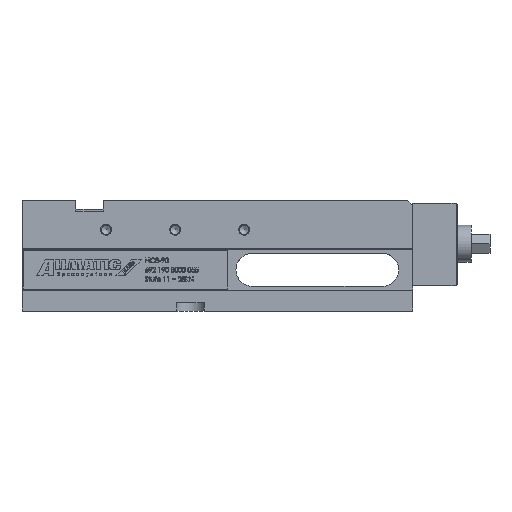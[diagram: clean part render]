
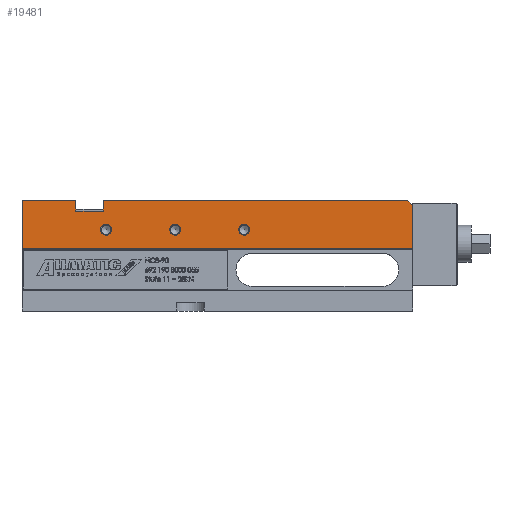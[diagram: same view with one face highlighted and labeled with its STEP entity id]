
A CAD part, top view. The second image highlights one B-rep face of the part: STEP entity #19481.
In plain terms, the highlighted planar face has unit normal (0, 0, 1).
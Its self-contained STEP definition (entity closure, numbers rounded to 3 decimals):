
#169 = EDGE_CURVE ( 'NONE', #33614, #24968, #80246, .T. ) ;
#342 = CARTESIAN_POINT ( 'NONE',  ( 287., 80.5, 45. ) ) ;
#566 = CARTESIAN_POINT ( 'NONE',  ( 63., 76.5, 45. ) ) ;
#716 = LINE ( 'NONE', #5271, #48009 ) ;
#1666 = FACE_BOUND ( 'NONE', #73721, .T. ) ;
#2230 = ORIENTED_EDGE ( 'NONE', *, *, #17403, .F. ) ;
#2311 = DIRECTION ( 'NONE',  ( 0., 0., -1. ) ) ;
#2615 = CARTESIAN_POINT ( 'NONE',  ( 4., 84., 45. ) ) ;
#3860 = EDGE_CURVE ( 'NONE', #24968, #87711, #76806, .T. ) ;
#4308 = CARTESIAN_POINT ( 'NONE',  ( 165., 63., 45. ) ) ;
#5242 = EDGE_CURVE ( 'NONE', #87711, #30133, #54923, .T. ) ;
#5271 = CARTESIAN_POINT ( 'NONE',  ( 287., 4., 45. ) ) ;
#6097 = EDGE_CURVE ( 'NONE', #30133, #64473, #100355, .T. ) ;
#8095 = ORIENTED_EDGE ( 'NONE', *, *, #169, .F. ) ;
#8390 = ORIENTED_EDGE ( 'NONE', *, *, #3860, .F. ) ;
#8435 = DIRECTION ( 'NONE',  ( 0., 0., 1. ) ) ;
#9870 = EDGE_CURVE ( 'NONE', #64473, #87802, #109875, .T. ) ;
#10565 = EDGE_CURVE ( 'NONE', #87802, #89664, #75079, .T. ) ;
#11250 = EDGE_CURVE ( 'NONE', #21393, #89664, #25298, .T. ) ;
#13100 = CARTESIAN_POINT ( 'NONE',  ( 63., 84., 45. ) ) ;
#15245 = ORIENTED_EDGE ( 'NONE', *, *, #6097, .F. ) ;
#16037 = CARTESIAN_POINT ( 'NONE',  ( 4., 4., 45. ) ) ;
#17234 = EDGE_CURVE ( 'NONE', #75955, #75955, #41947, .T. ) ;
#17403 = EDGE_CURVE ( 'NONE', #52459, #52459, #32714, .T. ) ;
#18557 = CARTESIAN_POINT ( 'NONE',  ( 169., 63., 45. ) ) ;
#19417 = AXIS2_PLACEMENT_3D ( 'NONE', #4308, #53293, #60640 ) ;
#19481 = ADVANCED_FACE ( 'NONE', ( #67226, #65984, #1666, #61372 ), #85770, .F. ) ;
#20871 = VECTOR ( 'NONE', #42254, 1000. ) ;
#21393 = VERTEX_POINT ( 'NONE', #342 ) ;
#23264 = EDGE_CURVE ( 'NONE', #96776, #96776, #26042, .T. ) ;
#24968 = VERTEX_POINT ( 'NONE', #2615 ) ;
#25298 = LINE ( 'NONE', #84901, #20871 ) ;
#26042 = CIRCLE ( 'NONE', #89824, 4. ) ;
#27328 = ORIENTED_EDGE ( 'NONE', *, *, #9870, .F. ) ;
#28781 = EDGE_LOOP ( 'NONE', ( #2230 ) ) ;
#29688 = ORIENTED_EDGE ( 'NONE', *, *, #5242, .F. ) ;
#30133 = VERTEX_POINT ( 'NONE', #77637 ) ;
#30564 = CARTESIAN_POINT ( 'NONE',  ( 4., 49., 45. ) ) ;
#32714 = CIRCLE ( 'NONE', #19417, 4. ) ;
#32859 = EDGE_CURVE ( 'NONE', #33614, #111500, #34142, .T. ) ;
#32877 = CARTESIAN_POINT ( 'NONE',  ( 115., 63., 45. ) ) ;
#33522 = CARTESIAN_POINT ( 'NONE',  ( 3.999, 49., 45. ) ) ;
#33614 = VERTEX_POINT ( 'NONE', #30564 ) ;
#34142 = LINE ( 'NONE', #33522, #90589 ) ;
#34610 = DIRECTION ( 'NONE',  ( 0., 1., 0. ) ) ;
#34996 = CARTESIAN_POINT ( 'NONE',  ( 63., 4., 45. ) ) ;
#36027 = DIRECTION ( 'NONE',  ( 1., 0., 0. ) ) ;
#36323 = DIRECTION ( 'NONE',  ( 0., 0., 1. ) ) ;
#38818 = CARTESIAN_POINT ( 'NONE',  ( 65., 63., 45. ) ) ;
#39125 = VECTOR ( 'NONE', #68016, 1000. ) ;
#40192 = VECTOR ( 'NONE', #34610, 1000. ) ;
#41947 = CIRCLE ( 'NONE', #101096, 4. ) ;
#42254 = DIRECTION ( 'NONE',  ( -0.707, 0.707, 0. ) ) ;
#44898 = AXIS2_PLACEMENT_3D ( 'NONE', #50341, #2311, #69728 ) ;
#46945 = CARTESIAN_POINT ( 'NONE',  ( 43., 84., 45. ) ) ;
#47595 = CARTESIAN_POINT ( 'NONE',  ( 43., 4., 45. ) ) ;
#47601 = DIRECTION ( 'NONE',  ( 1., 0., 0. ) ) ;
#48009 = VECTOR ( 'NONE', #67475, 1000. ) ;
#50341 = CARTESIAN_POINT ( 'NONE',  ( 4., 4., 45. ) ) ;
#52459 = VERTEX_POINT ( 'NONE', #18557 ) ;
#53293 = DIRECTION ( 'NONE',  ( 0., 0., 1. ) ) ;
#54923 = LINE ( 'NONE', #47595, #39125 ) ;
#57116 = DIRECTION ( 'NONE',  ( 1., 0., 0. ) ) ;
#60640 = DIRECTION ( 'NONE',  ( 1., 0., 0. ) ) ;
#60652 = ORIENTED_EDGE ( 'NONE', *, *, #32859, .T. ) ;
#61372 = FACE_OUTER_BOUND ( 'NONE', #82494, .T. ) ;
#64473 = VERTEX_POINT ( 'NONE', #566 ) ;
#65984 = FACE_BOUND ( 'NONE', #28781, .T. ) ;
#67226 = FACE_BOUND ( 'NONE', #102829, .T. ) ;
#67475 = DIRECTION ( 'NONE',  ( 0., 1., 0. ) ) ;
#68016 = DIRECTION ( 'NONE',  ( 0., -1., 0. ) ) ;
#69728 = DIRECTION ( 'NONE',  ( -1., 0., 0. ) ) ;
#69933 = ORIENTED_EDGE ( 'NONE', *, *, #93843, .T. ) ;
#71713 = CARTESIAN_POINT ( 'NONE',  ( 119., 63., 45. ) ) ;
#71765 = CARTESIAN_POINT ( 'NONE',  ( 287., 49., 45. ) ) ;
#72040 = CARTESIAN_POINT ( 'NONE',  ( 283.5, 84., 45. ) ) ;
#72357 = VECTOR ( 'NONE', #47601, 1000. ) ;
#73189 = ORIENTED_EDGE ( 'NONE', *, *, #11250, .T. ) ;
#73721 = EDGE_LOOP ( 'NONE', ( #101208 ) ) ;
#73854 = DIRECTION ( 'NONE',  ( 0., 1., 0. ) ) ;
#75079 = LINE ( 'NONE', #99508, #95965 ) ;
#75955 = VERTEX_POINT ( 'NONE', #71713 ) ;
#76806 = LINE ( 'NONE', #97569, #72357 ) ;
#77637 = CARTESIAN_POINT ( 'NONE',  ( 43., 76.5, 45. ) ) ;
#80246 = LINE ( 'NONE', #16037, #103952 ) ;
#82494 = EDGE_LOOP ( 'NONE', ( #69933, #73189, #84378, #27328, #15245, #29688, #8390, #8095, #60652 ) ) ;
#84378 = ORIENTED_EDGE ( 'NONE', *, *, #10565, .F. ) ;
#84901 = CARTESIAN_POINT ( 'NONE',  ( 283.5, 84., 45. ) ) ;
#85770 = PLANE ( 'NONE',  #44898 ) ;
#87711 = VERTEX_POINT ( 'NONE', #46945 ) ;
#87802 = VERTEX_POINT ( 'NONE', #13100 ) ;
#89462 = CARTESIAN_POINT ( 'NONE',  ( 69., 63., 45. ) ) ;
#89664 = VERTEX_POINT ( 'NONE', #72040 ) ;
#89824 = AXIS2_PLACEMENT_3D ( 'NONE', #38818, #36323, #36027 ) ;
#90589 = VECTOR ( 'NONE', #113444, 1000. ) ;
#90906 = CARTESIAN_POINT ( 'NONE',  ( 4., 76.5, 45. ) ) ;
#93843 = EDGE_CURVE ( 'NONE', #111500, #21393, #716, .T. ) ;
#95965 = VECTOR ( 'NONE', #57116, 1000. ) ;
#96776 = VERTEX_POINT ( 'NONE', #89462 ) ;
#97262 = DIRECTION ( 'NONE',  ( 1., 0., 0. ) ) ;
#97569 = CARTESIAN_POINT ( 'NONE',  ( 4., 84., 45. ) ) ;
#99508 = CARTESIAN_POINT ( 'NONE',  ( 4., 84., 45. ) ) ;
#100049 = VECTOR ( 'NONE', #106209, 1000. ) ;
#100355 = LINE ( 'NONE', #90906, #100049 ) ;
#101096 = AXIS2_PLACEMENT_3D ( 'NONE', #32877, #8435, #97262 ) ;
#101208 = ORIENTED_EDGE ( 'NONE', *, *, #17234, .F. ) ;
#102829 = EDGE_LOOP ( 'NONE', ( #107829 ) ) ;
#103952 = VECTOR ( 'NONE', #73854, 1000. ) ;
#106209 = DIRECTION ( 'NONE',  ( 1., 0., 0. ) ) ;
#107829 = ORIENTED_EDGE ( 'NONE', *, *, #23264, .F. ) ;
#109875 = LINE ( 'NONE', #34996, #40192 ) ;
#111500 = VERTEX_POINT ( 'NONE', #71765 ) ;
#113444 = DIRECTION ( 'NONE',  ( 1., 0., 0. ) ) ;
